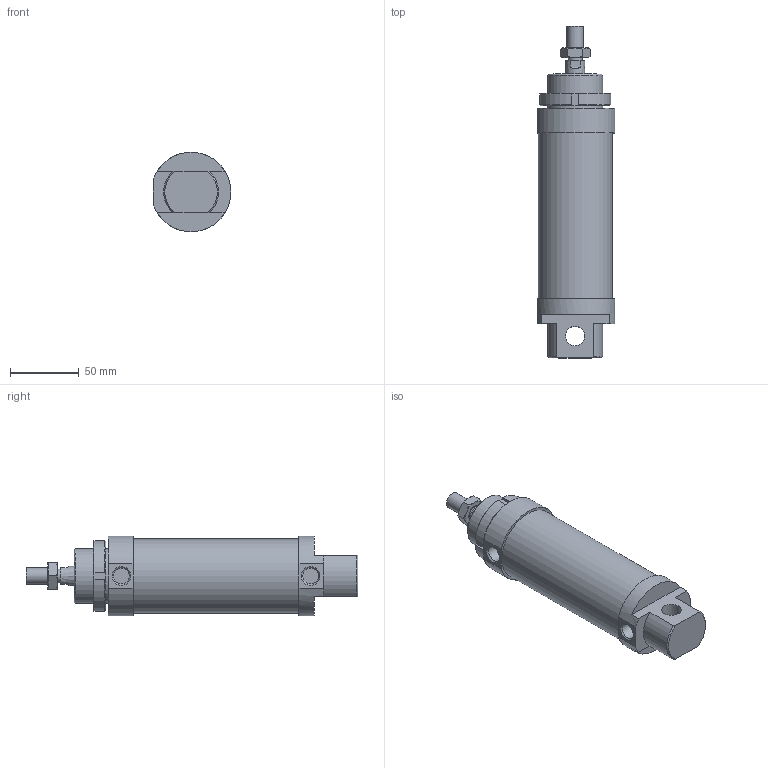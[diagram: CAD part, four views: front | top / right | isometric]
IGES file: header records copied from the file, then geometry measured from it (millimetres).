
Global section: file name: No Iges File Name specified; native system: AutoDesk Inventor R6.0; preprocessor: AutoDesk Inventor Iges Exporter R6.0; author: No Author specified; organization: No Organization specified; date: 20030402.144909; units: millimetre
Bounding box: 56.51 x 242 x 58 mm (x, y, z)
Surface area: 58325.9 mm2 (no closed solid volume)
Topology: 0 solids, 0 shells, 94 faces, 413 edges, 395 vertices
Faces by surface type: plane 44, revolution 39, bspline 11
